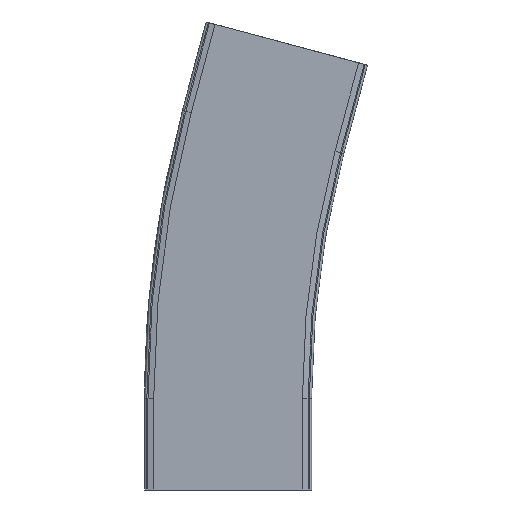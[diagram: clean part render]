
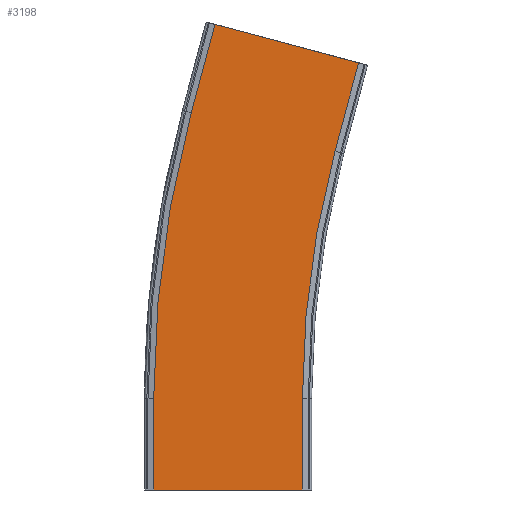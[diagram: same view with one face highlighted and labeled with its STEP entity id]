
A CAD part, front view. The second image highlights one B-rep face of the part: STEP entity #3198.
In plain terms, the highlighted planar face has unit normal (0, -1, 0).
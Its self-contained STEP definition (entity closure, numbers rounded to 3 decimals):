
#117=CIRCLE('',#3396,835.);
#118=CIRCLE('',#3398,965.);
#260=FACE_OUTER_BOUND('',#431,.T.);
#431=EDGE_LOOP('',(#2145,#2146,#2147,#2148,#2149,#2150,#2151,#2152));
#605=LINE('',#4482,#963);
#609=LINE('',#4489,#967);
#620=LINE('',#4522,#978);
#621=LINE('',#4524,#979);
#622=LINE('',#4525,#980);
#623=LINE('',#4526,#981);
#963=VECTOR('',#3636,10.);
#967=VECTOR('',#3642,10.);
#978=VECTOR('',#3673,10.);
#979=VECTOR('',#3674,10.);
#980=VECTOR('',#3675,10.);
#981=VECTOR('',#3676,10.);
#1321=VERTEX_POINT('',#4479);
#1322=VERTEX_POINT('',#4481);
#1324=VERTEX_POINT('',#4487);
#1333=VERTEX_POINT('',#4513);
#1334=VERTEX_POINT('',#4515);
#1335=VERTEX_POINT('',#4519);
#1336=VERTEX_POINT('',#4521);
#1337=VERTEX_POINT('',#4523);
#1637=EDGE_CURVE('',#1322,#1321,#605,.T.);
#1641=EDGE_CURVE('',#1324,#1321,#609,.T.);
#1654=EDGE_CURVE('',#1334,#1333,#117,.T.);
#1656=EDGE_CURVE('',#1335,#1324,#118,.T.);
#1657=EDGE_CURVE('',#1336,#1335,#620,.T.);
#1658=EDGE_CURVE('',#1336,#1337,#621,.T.);
#1659=EDGE_CURVE('',#1337,#1334,#622,.T.);
#1660=EDGE_CURVE('',#1333,#1322,#623,.T.);
#2145=ORIENTED_EDGE('',*,*,#1637,.T.);
#2146=ORIENTED_EDGE('',*,*,#1641,.F.);
#2147=ORIENTED_EDGE('',*,*,#1656,.F.);
#2148=ORIENTED_EDGE('',*,*,#1657,.F.);
#2149=ORIENTED_EDGE('',*,*,#1658,.T.);
#2150=ORIENTED_EDGE('',*,*,#1659,.T.);
#2151=ORIENTED_EDGE('',*,*,#1654,.T.);
#2152=ORIENTED_EDGE('',*,*,#1660,.T.);
#3083=PLANE('',#3397);
#3198=ADVANCED_FACE('',(#260),#3083,.T.);
#3396=AXIS2_PLACEMENT_3D('',#4516,#3666,#3667);
#3397=AXIS2_PLACEMENT_3D('',#4518,#3669,#3670);
#3398=AXIS2_PLACEMENT_3D('',#4520,#3671,#3672);
#3636=DIRECTION('',(-0.966,0.,0.259));
#3642=DIRECTION('',(0.259,0.,0.966));
#3666=DIRECTION('center_axis',(0.,1.,0.));
#3667=DIRECTION('ref_axis',(-1.,0.,0.));
#3669=DIRECTION('center_axis',(0.,-1.,0.));
#3670=DIRECTION('ref_axis',(-0.259,0.,-0.966));
#3671=DIRECTION('center_axis',(0.,1.,0.));
#3672=DIRECTION('ref_axis',(-1.,0.,0.));
#3673=DIRECTION('',(0.,0.,1.));
#3674=DIRECTION('',(1.,0.,0.));
#3675=DIRECTION('',(0.,0.,1.));
#3676=DIRECTION('',(0.259,0.,0.966));
#4479=CARTESIAN_POINT('',(27.588,-72.,407.034));
#4481=CARTESIAN_POINT('',(153.158,-72.,373.388));
#4482=CARTESIAN_POINT('',(120.317,-72.,382.188));
#4487=CARTESIAN_POINT('',(6.882,-72.,329.76));
#4489=CARTESIAN_POINT('',(-74.806,-72.,24.895));
#4513=CARTESIAN_POINT('',(132.453,-72.,296.114));
#4515=CARTESIAN_POINT('',(104.001,-72.,80.));
#4516=CARTESIAN_POINT('Origin',(939.001,-72.,80.));
#4518=CARTESIAN_POINT('Origin',(50.764,-72.,-8.751));
#4519=CARTESIAN_POINT('',(-25.999,-72.,80.));
#4520=CARTESIAN_POINT('Origin',(939.001,-72.,80.));
#4521=CARTESIAN_POINT('',(-25.999,-72.,0.));
#4522=CARTESIAN_POINT('',(-25.999,-72.,0.));
#4523=CARTESIAN_POINT('',(104.001,-72.,0.));
#4524=CARTESIAN_POINT('',(-25.999,-72.,0.));
#4525=CARTESIAN_POINT('',(104.001,-72.,0.));
#4526=CARTESIAN_POINT('',(50.764,-72.,-8.751));
